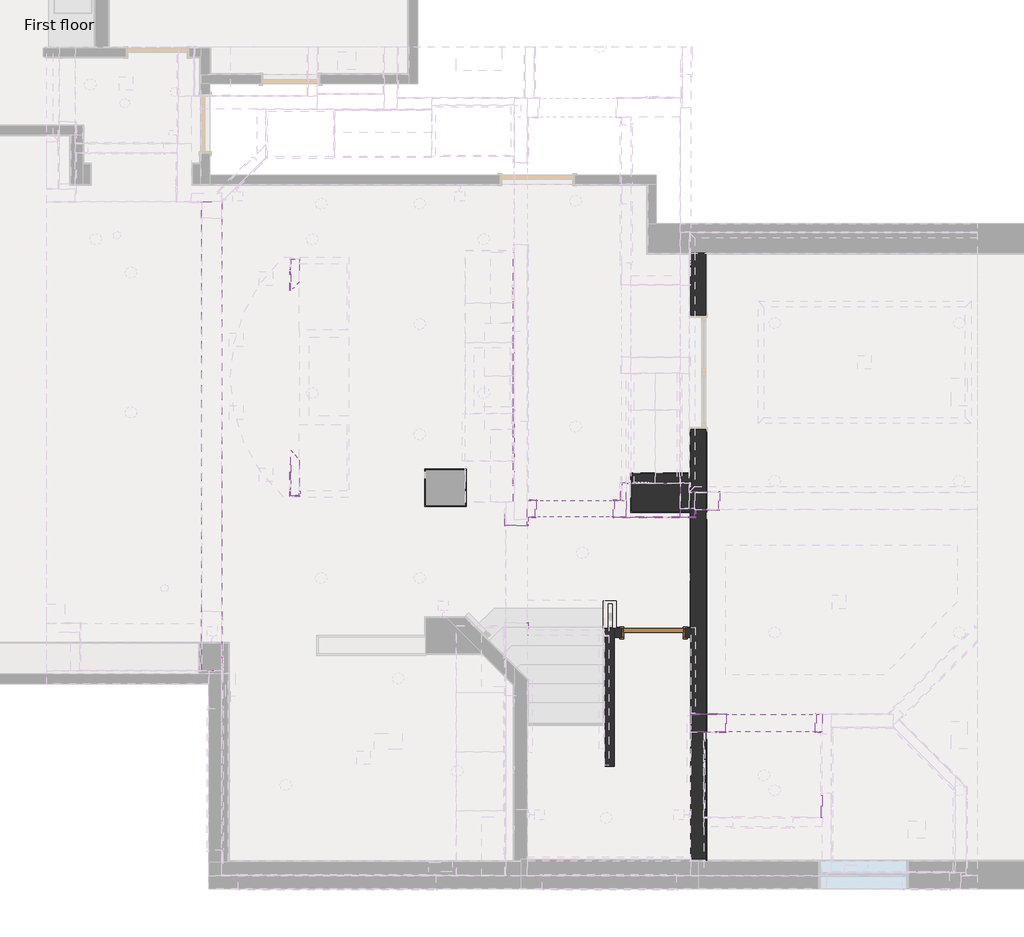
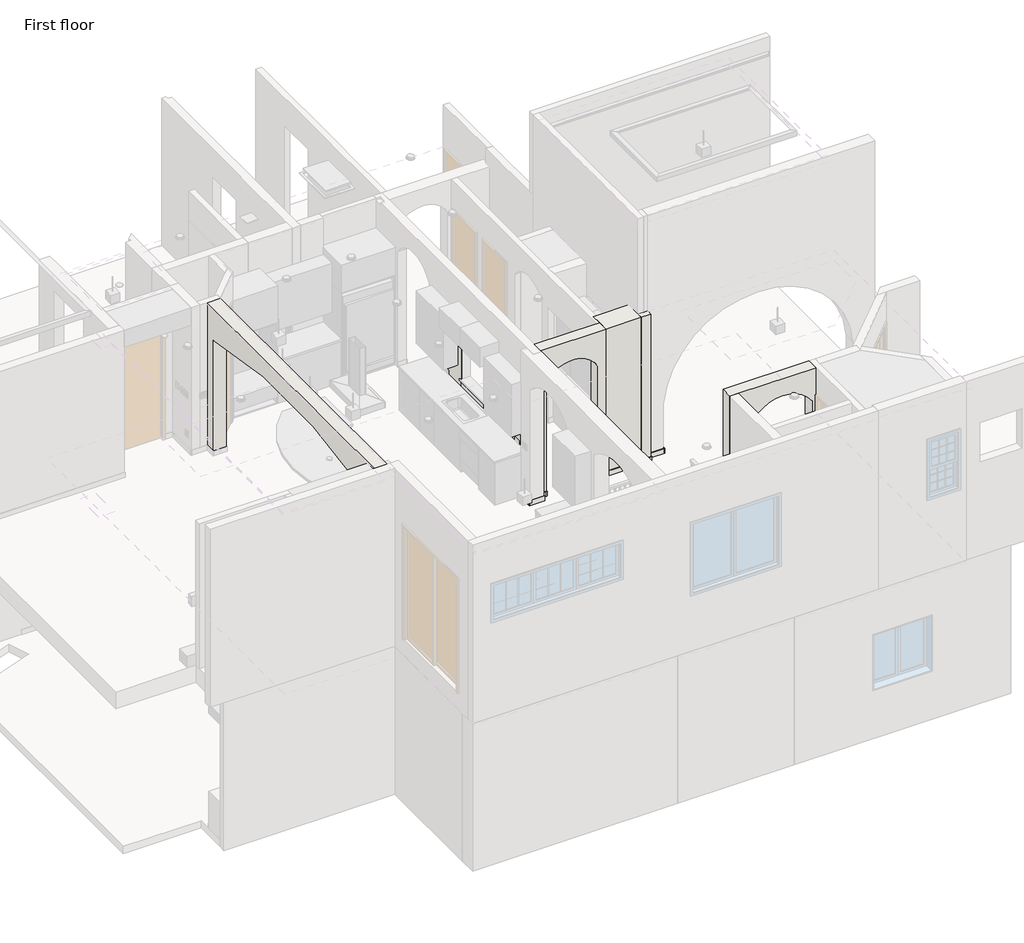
# One storey, part 4 of 14: 53 walls, 1 door.
"""IFC4 building model written with IfcOpenShell, lengths in millimetres."""

from ifc_helpers import new_model, si_unit, point, frame, frame_2d, origin, origin_with_axes, place, context, project, spatial, polyline, circle_curve, trimmed, segment, composite_curve, outline, extrude, faceted_brep, transform, mapped, element, save
from ifc_brep_helpers import plane_surface, revolved_surface, advanced_brep
from components import door_1276751d

model = new_model("IFC4")

# Units and contexts
model_context = context("Model", 3, world=origin())
ifc_project = project(units=[si_unit("LENGTHUNIT", "METRE", prefix="MILLI")], contexts=[model_context])

# Site, building, storey
site = spatial("IfcSite", under=ifc_project)
building = spatial("IfcBuilding", under=site)
storey = spatial("IfcBuildingStorey", under=building, Name="First floor", Elevation=0.0)

# Door
placement = place(None, origin())
door_shape = door_1276751d(model_context)
element("IfcDoor", 1, ObjectType="C_Single Door : 2'-6\" X 8'-0\"", at=placement, inside=storey, context=model_context, shape_type="MappedRepresentation", body=[
    mapped(door_shape, transform((5727.7, 3295.65, 0.0), x_axis=(-1.0, 0.0, 0.0), y_axis=(0.0, -1.0, 0.0), z_axis=(0.0, 0.0, 1.0))),
])

# Walls
element("IfcWall", 2, ObjectType="Wall Border_T1", at=placement, inside=storey, context=model_context, shape_type="Brep", body=[
    faceted_brep([(6413.5, 368.3, 0.0), (6413.5, 5892.8, 0.0), (6413.5, 5892.8, 101.6), (6413.5, 368.3, 101.6), (6400.8, 368.3, 0.0), (6400.8, 368.3, 101.6), (6400.8, 5892.8, 101.6), (6400.8, 5892.8, 0.0), (6400.8, 381.0, 0.0)], [[[0, 1, 2, 3]], [[4, 5, 6, 7, 8]], [[1, 0, 4, 8, 7]], [[2, 1, 7, 6]], [[3, 2, 6, 5]], [[0, 3, 5, 4]]]),
])
element("IfcWall", 3, ObjectType="Wall Border_T1", at=placement, inside=storey, context=model_context, shape_type="Brep", body=[
    faceted_brep([(6197.6, 4864.1, 0.0), (6197.6, 4851.4, 0.0), (6197.6, 3365.5, 0.0), (6197.6, 3365.5, 101.6), (6197.6, 4851.4, 101.6), (6197.6, 4864.1, 101.6), (6210.3, 4864.1, 0.0), (6210.3, 4864.1, 101.6), (6210.3, 3365.5, 101.6), (6210.3, 3365.5, 0.0)], [[[0, 1, 2, 3, 4, 5]], [[6, 7, 8, 9]], [[2, 1, 0, 6, 9]], [[5, 4, 3, 8, 7]], [[0, 5, 7, 6]], [[3, 2, 9, 8]]]),
])
element("IfcWall", 4, ObjectType="Wall Border_T1", at=placement, inside=storey, context=model_context, shape_type="Brep", body=[
    faceted_brep([(6210.3, 3365.5, 0.0), (6197.6, 3365.5, 0.0), (6159.5, 3365.5, 0.0), (6159.5, 3365.5, 101.6), (6197.6, 3365.5, 101.6), (6210.3, 3365.5, 101.6), (6210.3, 3352.8, 0.0), (6210.3, 3352.8, 101.6), (6159.5, 3352.8, 101.6), (6159.5, 3352.8, 0.0)], [[[0, 1, 2, 3, 4, 5]], [[6, 7, 8, 9]], [[2, 1, 0, 6, 9]], [[3, 2, 9, 8]], [[5, 4, 3, 8, 7]], [[0, 5, 7, 6]]]),
])
element("IfcWall", 5, ObjectType="Wall Border_T1", at=placement, inside=storey, context=model_context, shape_type="SweptSolid", body=[
    extrude(outline(polyline([(5245.0999879, 3365.5), (5295.9, 3365.5), (5295.9, 3352.8), (5245.0999879, 3352.8), (5245.0999879, 3365.5)])), origin_with_axes(), (0.0, 0.0, 1.0), 101.6),
])
element("IfcWall", 6, ObjectType="Wall Border_T1", at=placement, inside=storey, context=model_context, shape_type="Brep", body=[
    faceted_brep([(6197.6, 5892.8, 0.0), (6197.6, 5359.4, 0.0), (6197.6, 5346.7, 0.0), (6197.6, 5346.7, 101.6), (6197.6, 5359.4, 101.6), (6197.6, 5892.8, 101.6), (6210.3, 5892.8, 0.0), (6210.3, 5892.8, 101.6), (6210.3, 5346.7, 101.6), (6210.3, 5346.7, 0.0)], [[[0, 1, 2, 3, 4, 5]], [[6, 7, 8, 9]], [[2, 1, 0, 6, 9]], [[5, 4, 3, 8, 7]], [[0, 5, 7, 6]], [[3, 2, 9, 8]]]),
])
element("IfcWall", 7, ObjectType="Wall Border_T1", at=placement, inside=storey, context=model_context, shape_type="Brep", body=[
    faceted_brep([(4114.8, 5003.6947939, 3251.2), (4203.7, 5003.6947939, 3251.2), (4216.4, 5003.6947939, 3251.2), (4216.4, 5003.6947939, 3352.8), (4203.7, 5003.6947939, 3352.8), (4114.8, 5003.6947939, 3352.8), (4114.8, 5016.3947939, 3251.2), (4114.8, 5016.3947939, 3352.8), (4216.4, 5016.3947939, 3352.8), (4216.4, 5016.3947939, 3251.2)], [[[0, 1, 2, 3, 4, 5]], [[6, 7, 8, 9]], [[2, 1, 0, 6, 9]], [[5, 4, 3, 8, 7]], [[0, 5, 7, 6]], [[3, 2, 9, 8]]]),
])
element("IfcWall", 8, ObjectType="Wall Border_T1", at=placement, inside=storey, context=model_context, shape_type="Brep", body=[
    faceted_brep([(4203.7, 5003.6947939, 3251.2), (4203.7, 4787.7947939, 3251.2), (4203.7, 4775.0947939, 3251.2), (4203.7, 4775.0947939, 3352.8), (4203.7, 4787.7947939, 3352.8), (4203.7, 5003.6947939, 3352.8), (4216.4, 5003.6947939, 3251.2), (4216.4, 5003.6947939, 3352.8), (4216.4, 4775.0947939, 3352.8), (4216.4, 4775.0947939, 3251.2)], [[[0, 1, 2, 3, 4, 5]], [[6, 7, 8, 9]], [[2, 1, 0, 6, 9]], [[5, 4, 3, 8, 7]], [[0, 5, 7, 6]], [[3, 2, 9, 8]]]),
])
element("IfcWall", 9, ObjectType="Wall Border_T1", at=placement, inside=storey, context=model_context, shape_type="Brep", body=[
    faceted_brep([(4203.7, 4787.7947939, 3251.2), (4102.1, 4787.7947939, 3251.2), (4102.1, 4787.7947939, 3352.8), (4203.7, 4787.7947939, 3352.8), (4203.7, 4775.0947939, 3251.2), (4203.7, 4775.0947939, 3352.8), (4114.8, 4775.0947939, 3352.8), (4102.1, 4775.0947939, 3352.8), (4102.1, 4775.0947939, 3251.2), (4114.8, 4775.0947939, 3251.2)], [[[0, 1, 2, 3]], [[4, 5, 6, 7, 8, 9]], [[1, 0, 4, 9, 8]], [[3, 2, 7, 6, 5]], [[0, 3, 5, 4]], [[2, 1, 8, 7]]]),
])
element("IfcWall", 10, ObjectType="Wall Border_T1", at=placement, inside=storey, context=model_context, shape_type="Brep", body=[
    faceted_brep([(4114.8, 3263.9, 3251.2), (4114.8, 3428.8947939, 3251.2), (4114.8, 3428.8947939, 3352.8), (4114.8, 3263.9, 3352.8), (4102.1, 3263.9, 3251.2), (4102.1, 3263.9, 3352.8), (4102.1, 3416.1947939, 3352.8), (4102.1, 3428.8947939, 3352.8), (4102.1, 3428.8947939, 3251.2), (4102.1, 3416.1947939, 3251.2)], [[[0, 1, 2, 3]], [[4, 5, 6, 7, 8, 9]], [[1, 0, 4, 9, 8]], [[3, 2, 7, 6, 5]], [[0, 3, 5, 4]], [[2, 1, 8, 7]]]),
])
element("IfcWall", 11, ObjectType="Wall Border_T1", at=placement, inside=storey, context=model_context, shape_type="Brep", body=[
    faceted_brep([(6210.3, 2247.9, 3251.2), (6654.8, 2247.9, 3251.2), (6667.5, 2247.9, 3251.2), (6667.5, 2247.9, 3352.8), (6654.8, 2247.9, 3352.8), (6210.3, 2247.9, 3352.8), (6210.3, 2260.6, 3251.2), (6210.3, 2260.6, 3352.8), (6667.5, 2260.6, 3352.8), (6667.5, 2260.6, 3251.2)], [[[0, 1, 2, 3, 4, 5]], [[6, 7, 8, 9]], [[2, 1, 0, 6, 9]], [[5, 4, 3, 8, 7]], [[0, 5, 7, 6]], [[3, 2, 9, 8]]]),
])
element("IfcWall", 12, ObjectType="Wall Border_T1", at=placement, inside=storey, context=model_context, shape_type="Brep", body=[
    faceted_brep([(6654.8, 2247.9, 3251.2), (6654.8, 2019.3, 3251.2), (6654.8, 2006.6, 3251.2), (6654.8, 2006.6, 3352.8), (6654.8, 2019.3, 3352.8), (6654.8, 2247.9, 3352.8), (6667.5, 2247.9, 3251.2), (6667.5, 2247.9, 3352.8), (6667.5, 2006.6, 3352.8), (6667.5, 2006.6, 3251.2)], [[[0, 1, 2, 3, 4, 5]], [[6, 7, 8, 9]], [[2, 1, 0, 6, 9]], [[5, 4, 3, 8, 7]], [[0, 5, 7, 6]], [[3, 2, 9, 8]]]),
])
element("IfcWall", 13, ObjectType="Wall Border_T1", at=placement, inside=storey, context=model_context, shape_type="Brep", body=[
    faceted_brep([(6654.8, 2019.3, 3251.2), (6375.4, 2019.3, 3251.2), (6375.4, 2019.3, 3352.8), (6654.8, 2019.3, 3352.8), (6654.8, 2006.6, 3251.2), (6654.8, 2006.6, 3352.8), (6388.1, 2006.6, 3352.8), (6375.4, 2006.6, 3352.8), (6375.4, 2006.6, 3251.2), (6388.1, 2006.6, 3251.2)], [[[0, 1, 2, 3]], [[4, 5, 6, 7, 8, 9]], [[1, 0, 4, 9, 8]], [[3, 2, 7, 6, 5]], [[0, 3, 5, 4]], [[2, 1, 8, 7]]]),
])
element("IfcWall", 14, ObjectType="Wall Border_T1", at=placement, inside=storey, context=model_context, shape_type="Brep", body=[
    faceted_brep([(7880.35, 2019.3, 3251.2), (7823.2, 2019.3, 3251.2), (7810.5, 2019.3, 3251.2), (7810.5, 2019.3, 3352.8), (7823.2, 2019.3, 3352.8), (7880.35, 2019.3, 3352.8), (7880.35, 2006.6, 3251.2), (7880.35, 2006.6, 3352.8), (7810.5, 2006.6, 3352.8), (7810.5, 2006.6, 3251.2)], [[[0, 1, 2, 3, 4, 5]], [[6, 7, 8, 9]], [[2, 1, 0, 6, 9]], [[5, 4, 3, 8, 7]], [[0, 5, 7, 6]], [[3, 2, 9, 8]]]),
])
element("IfcWall", 15, ObjectType="Wall Border_T1", at=placement, inside=storey, context=model_context, shape_type="Brep", body=[
    faceted_brep([(7823.2, 2019.3, 3251.2), (7823.2, 2247.9, 3251.2), (7823.2, 2260.6, 3251.2), (7823.2, 2260.6, 3352.8), (7823.2, 2247.9, 3352.8), (7823.2, 2019.3, 3352.8), (7810.5, 2019.3, 3251.2), (7810.5, 2019.3, 3352.8), (7810.5, 2260.6, 3352.8), (7810.5, 2260.6, 3251.2)], [[[0, 1, 2, 3, 4, 5]], [[6, 7, 8, 9]], [[2, 1, 0, 6, 9]], [[5, 4, 3, 8, 7]], [[0, 5, 7, 6]], [[3, 2, 9, 8]]]),
])
element("IfcWall", 16, ObjectType="Wall Border_T1", at=placement, inside=storey, context=model_context, shape_type="Brep", body=[
    faceted_brep([(7886.7, 1206.5, 3251.2), (7886.7, 927.1, 3251.2), (7886.7, 914.4, 3251.2), (7886.7, 914.4, 3352.8), (7886.7, 927.1, 3352.8), (7886.7, 1206.5, 3352.8), (7899.4, 1206.5, 3251.2), (7899.4, 1206.5, 3352.8), (7899.4, 914.4, 3352.8), (7899.4, 914.4, 3251.2)], [[[0, 1, 2, 3, 4, 5]], [[6, 7, 8, 9]], [[2, 1, 0, 6, 9]], [[5, 4, 3, 8, 7]], [[0, 5, 7, 6]], [[3, 2, 9, 8]]]),
])
element("IfcWall", 17, ObjectType="Wall Border_T1", at=placement, inside=storey, context=model_context, shape_type="Brep", body=[
    faceted_brep([(5207.0, 5003.6947939, 3251.2), (5219.7, 5003.6947939, 3251.2), (5321.3, 5003.6947939, 3251.2), (5321.3, 5003.6947939, 3352.8), (5219.7, 5003.6947939, 3352.8), (5207.0, 5003.6947939, 3352.8), (5207.0, 5016.3947939, 3251.2), (5207.0, 5016.3947939, 3352.8), (5308.6, 5016.3947939, 3352.8), (5321.3, 5016.3947939, 3352.8), (5321.3, 5016.3947939, 3251.2), (5308.6, 5016.3947939, 3251.2)], [[[0, 1, 2, 3, 4, 5]], [[6, 7, 8, 9, 10, 11]], [[2, 1, 0, 6, 11, 10]], [[5, 4, 3, 9, 8, 7]], [[3, 2, 10, 9]], [[0, 5, 7, 6]]]),
])
element("IfcWall", 18, ObjectType="Wall Border_T1", at=placement, inside=storey, context=model_context, shape_type="Brep", body=[
    faceted_brep([(5321.3, 5016.3947939, 3251.2), (5321.3, 5219.5947939, 3251.2), (5321.3, 5232.2947939, 3251.2), (5321.3, 5232.2947939, 3352.8), (5321.3, 5219.5947939, 3352.8), (5321.3, 5016.3947939, 3352.8), (5308.6, 5016.3947939, 3251.2), (5308.6, 5016.3947939, 3352.8), (5308.6, 5232.2947939, 3352.8), (5308.6, 5232.2947939, 3251.2)], [[[0, 1, 2, 3, 4, 5]], [[6, 7, 8, 9]], [[2, 1, 0, 6, 9]], [[5, 4, 3, 8, 7]], [[0, 5, 7, 6]], [[3, 2, 9, 8]]]),
])
element("IfcWall", 19, ObjectType="Wall Border_T1", at=placement, inside=storey, context=model_context, shape_type="Brep", body=[
    faceted_brep([(5207.0, 5003.6947939, 3251.2), (5207.0, 4775.0947939, 3251.2), (5207.0, 4775.0947939, 3352.8), (5207.0, 5003.6947939, 3352.8), (5219.7, 5003.6947939, 3251.2), (5219.7, 5003.6947939, 3352.8), (5219.7, 4787.7947939, 3352.8), (5219.7, 4775.0947939, 3352.8), (5219.7, 4775.0947939, 3251.2), (5219.7, 4787.7947939, 3251.2)], [[[0, 1, 2, 3]], [[4, 5, 6, 7, 8, 9]], [[1, 0, 4, 9, 8]], [[3, 2, 7, 6, 5]], [[0, 3, 5, 4]], [[2, 1, 8, 7]]]),
])
element("IfcWall", 20, ObjectType="Wall Border_T1", at=placement, inside=storey, context=model_context, shape_type="Brep", body=[
    faceted_brep([(5219.7, 4775.0947939, 3251.2), (6273.7999991, 4775.0947939, 3251.2), (6273.7999991, 4775.0947939, 3352.8), (5219.7, 4775.0947939, 3352.8), (5219.7, 4787.7947939, 3251.2), (5219.7, 4787.7947939, 3352.8), (6261.0999991, 4787.7947939, 3352.8), (6273.7999991, 4787.7947939, 3352.8), (6273.7999991, 4787.7947939, 3251.2), (6261.0999991, 4787.7947939, 3251.2)], [[[0, 1, 2, 3]], [[4, 5, 6, 7, 8, 9]], [[1, 0, 4, 9, 8]], [[3, 2, 7, 6, 5]], [[0, 3, 5, 4]], [[2, 1, 8, 7]]]),
])
element("IfcWall", 21, ObjectType="Wall Border_T1", at=placement, inside=storey, context=model_context, shape_type="Brep", body=[
    faceted_brep([(6273.7999991, 4787.7947939, 3251.2), (6273.7999991, 4876.8001027, 3251.2), (6273.7999991, 4889.5001027, 3251.2), (6273.7999991, 4889.5001027, 3352.8), (6273.7999991, 4876.8001027, 3352.8), (6273.7999991, 4787.7947939, 3352.8), (6261.0999991, 4787.7947939, 3251.2), (6261.0999991, 4787.7947939, 3352.8), (6261.0999991, 4889.5001027, 3352.8), (6261.0999991, 4889.5001027, 3251.2)], [[[0, 1, 2, 3, 4, 5]], [[6, 7, 8, 9]], [[2, 1, 0, 6, 9]], [[5, 4, 3, 8, 7]], [[0, 5, 7, 6]], [[3, 2, 9, 8]]]),
])
element("IfcWall", 22, ObjectType="Wall Border_T1", at=placement, inside=storey, context=model_context, shape_type="SweptSolid", body=[
    extrude(outline(polyline([(6566.0527866, 4876.8001027), (6273.7999991, 4876.8001027), (6273.7999991, 4889.5001027), (6566.0527866, 4889.5001027), (6566.0527866, 4876.8001027)])), frame((0.0, 0.0, 3251.2), z_axis=(0.0, 0.0, 1.0), x_axis=(1.0, 0.0, 0.0)), (0.0, 0.0, 1.0), 101.6),
])
element("IfcWall", 23, ObjectType="Wall Border_T1", at=placement, inside=storey, context=model_context, shape_type="Brep", body=[
    faceted_brep([(6566.0527866, 5118.1001027, 3251.2), (6197.5999991, 5118.1001027, 3251.2), (6184.8999991, 5118.1001027, 3251.2), (6184.8999991, 5118.1001027, 3352.8), (6197.5999991, 5118.1001027, 3352.8), (6566.0527866, 5118.1001027, 3352.8), (6566.0527866, 5105.4001027, 3251.2), (6566.0527866, 5105.4001027, 3352.8), (6184.8999991, 5105.4001027, 3352.8), (6184.8999991, 5105.4001027, 3251.2)], [[[0, 1, 2, 3, 4, 5]], [[6, 7, 8, 9]], [[2, 1, 0, 6, 9]], [[5, 4, 3, 8, 7]], [[3, 2, 9, 8]], [[0, 5, 7, 6]]]),
])
element("IfcWall", 24, ObjectType="Wall Border_T1", at=placement, inside=storey, context=model_context, shape_type="Brep", body=[
    faceted_brep([(3810.0, 4984.6447939, 3251.2), (3810.0, 4673.4947939, 3251.2), (3810.0, 4673.4947939, 3352.8), (3810.0, 4984.6447939, 3352.8), (3822.7, 4984.6447939, 3251.2), (3822.7, 4984.6447939, 3352.8), (3822.7, 4686.1947939, 3352.8), (3822.7, 4673.4947939, 3352.8), (3822.7, 4673.4947939, 3251.2), (3822.7, 4686.1947939, 3251.2)], [[[0, 1, 2, 3]], [[4, 5, 6, 7, 8, 9]], [[1, 0, 4, 9, 8]], [[3, 2, 7, 6, 5]], [[0, 3, 5, 4]], [[2, 1, 8, 7]]]),
])
element("IfcWall", 25, ObjectType="Wall Border_T1", at=placement, inside=storey, context=model_context, shape_type="Brep", body=[
    faceted_brep([(3822.7, 4673.4947939, 3251.2), (4114.8, 4673.4947939, 3251.2), (4114.8, 4673.4947939, 3352.8), (3822.7, 4673.4947939, 3352.8), (3822.7, 4686.1947939, 3251.2), (3822.7, 4686.1947939, 3352.8), (4102.1, 4686.1947939, 3352.8), (4114.8, 4686.1947939, 3352.8), (4114.8, 4686.1947939, 3251.2), (4102.1, 4686.1947939, 3251.2)], [[[0, 1, 2, 3]], [[4, 5, 6, 7, 8, 9]], [[1, 0, 4, 9, 8]], [[3, 2, 7, 6, 5]], [[0, 3, 5, 4]], [[2, 1, 8, 7]]]),
])
element("IfcWall", 26, ObjectType="Wall Border_T1", at=placement, inside=storey, context=model_context, shape_type="SweptSolid", body=[
    extrude(outline(polyline([(5410.2, 5219.5947939), (5321.3, 5219.5947939), (5321.3, 5232.2947939), (5410.2, 5232.2947939), (5410.2, 5219.5947939)])), frame((0.0, 0.0, 3251.2), z_axis=(0.0, 0.0, 1.0), x_axis=(1.0, 0.0, 0.0)), (0.0, 0.0, 1.0), 101.6),
])
element("IfcWall", 27, ObjectType="Wall Border_T1", at=placement, inside=storey, context=model_context, shape_type="SweptSolid", body=[
    extrude(outline(composite_curve([segment(polyline([(8204.0947939, 4165.6), (7188.0947939, 4165.6), (7188.0947939, 4546.6), (7188.0947939, 5054.6)]), True, "CONTINUOUS"), segment(trimmed(circle_curve(frame_2d((6603.8947939, 4583.5454545)), 750.4545455), [point((7188.0947939, 5054.6))], [point((6019.6947939, 5054.6))], True, "CARTESIAN"), True, "CONTINUOUS"), segment(polyline([(6019.6947939, 5054.6), (6019.6947939, 4546.6), (5918.0947939, 4546.6), (5918.0947939, 5461.0), (7289.6947939, 5461.0), (7289.6947939, 4546.6), (8204.0947939, 4546.6), (8204.0947939, 4165.6)]), True, "CONTINUOUS")], self_intersect=False)), frame((3924.3, 0.0, 0.0), z_axis=(1.0, 0.0, 0.0), x_axis=(0.0, 1.0, 0.0)), (0.0, 0.0, 1.0), 12.7),
])
element("IfcWall", 28, ObjectType="Wall Border_T1", at=placement, inside=storey, context=model_context, shape_type="SweptSolid", body=[
    extrude(outline(polyline([(3924.3, 6019.6947939), (3924.3, 7188.0947939), (3937.0, 7188.0947939), (3937.0, 6019.6947939), (3924.3, 6019.6947939)])), frame((0.0, 0.0, 4165.6), z_axis=(0.0, 0.0, 1.0), x_axis=(1.0, 0.0, 0.0)), (0.0, 0.0, 1.0), 127.0),
])
element("IfcWall", 29, ObjectType="Wall Border_T1", at=placement, inside=storey, context=model_context, shape_type="Brep", body=[
    faceted_brep([(3924.3, 6019.6947939, 4165.6), (3924.3, 4984.6447939, 4165.6), (3924.3, 4984.6447939, 4546.6), (3924.3, 6019.6947939, 4546.6), (3924.3, 6019.6947939, 4292.6), (3937.0, 6019.6947939, 4165.6), (3937.0, 6019.6947939, 4292.6), (3937.0, 6019.6947939, 4546.6), (3937.0, 4984.6447939, 4546.6), (3937.0, 4984.6447939, 4165.6)], [[[0, 1, 2, 3, 4]], [[5, 6, 7, 8, 9]], [[1, 0, 5, 9]], [[2, 1, 9, 8]], [[3, 2, 8, 7]], [[0, 4, 3, 7, 6, 5]]]),
])
element("IfcWall", 30, ObjectType="Wall Border_T1", at=placement, inside=storey, context=model_context, shape_type="SweptSolid", body=[
    extrude(outline(composite_curve([segment(polyline([(1041.4, 7709.5127723), (1041.4, 8115.3), (1054.1, 8115.3), (1054.1, 7722.9038022)]), True, "CONTINUOUS"), segment(trimmed(circle_curve(frame_2d((2233.8665727, 6591.3)), 1634.7404477), [point((1054.1, 7722.9038022))], [point((1041.4, 7709.5127723))], True, "CARTESIAN"), True, "CONTINUOUS")], self_intersect=False)), frame((0.0, 0.0, 3251.2), z_axis=(0.0, 0.0, 1.0), x_axis=(1.0, 0.0, 0.0)), (0.0, 0.0, 1.0), 101.6),
])
element("IfcWall", 31, ObjectType="Wall Border_T1", at=placement, inside=storey, context=model_context, shape_type="Brep", body=[
    faceted_brep([(1168.4, 5124.45, 3251.2), (1168.4, 5067.3, 3251.2), (1168.4, 5054.6, 3251.2), (1168.4, 5054.6, 3352.8), (1168.4, 5067.3, 3352.8), (1168.4, 5124.45, 3352.8), (1181.1, 5124.45, 3251.2), (1181.1, 5124.45, 3352.8), (1181.1, 5054.6, 3352.8), (1181.1, 5054.6, 3251.2)], [[[0, 1, 2, 3, 4, 5]], [[6, 7, 8, 9]], [[2, 1, 0, 6, 9]], [[5, 4, 3, 8, 7]], [[0, 5, 7, 6]], [[3, 2, 9, 8]]]),
])
element("IfcWall", 32, ObjectType="Wall Border_T1", at=placement, inside=storey, context=model_context, shape_type="Brep", body=[
    faceted_brep([(1168.4, 5067.3, 3251.2), (1054.1, 5067.3, 3251.2), (1041.4, 5067.3, 3251.2), (1041.4, 5067.3, 3352.8), (1054.1, 5067.3, 3352.8), (1168.4, 5067.3, 3352.8), (1168.4, 5054.6, 3251.2), (1168.4, 5054.6, 3352.8), (1041.4, 5054.6, 3352.8), (1041.4, 5054.6, 3251.2)], [[[0, 1, 2, 3, 4, 5]], [[6, 7, 8, 9]], [[2, 1, 0, 6, 9]], [[5, 4, 3, 8, 7]], [[0, 5, 7, 6]], [[3, 2, 9, 8]]]),
])
element("IfcWall", 33, ObjectType="Wall Border_T1", at=placement, inside=storey, context=model_context, shape_type="SweptSolid", body=[
    extrude(outline(composite_curve([segment(polyline([(1054.1, 5459.6961978), (1054.1, 5067.3), (1041.4, 5067.3), (1041.4, 5473.0872277)]), True, "CONTINUOUS"), segment(trimmed(circle_curve(frame_2d((2233.8665727, 6591.3)), 1634.7404477), [point((1041.4, 5473.0872277))], [point((1054.1, 5459.6961978))], True, "CARTESIAN"), True, "CONTINUOUS")], self_intersect=False)), frame((0.0, 0.0, 3251.2), z_axis=(0.0, 0.0, 1.0), x_axis=(1.0, 0.0, 0.0)), (0.0, 0.0, 1.0), 101.6),
])
element("IfcWall", 34, ObjectType="Wall Border_T1", at=placement, inside=storey, context=model_context, shape_type="Brep", body=[
    faceted_brep([(6197.6, 4864.1, 0.0), (5448.3, 4864.1, 0.0), (5435.6, 4864.1, 0.0), (5435.6, 4864.1, 101.6), (5448.3, 4864.1, 101.6), (6197.6, 4864.1, 101.6), (6197.6, 4851.4, 0.0), (6197.6, 4851.4, 101.6), (5435.6, 4851.4, 101.6), (5435.6, 4851.4, 0.0)], [[[0, 1, 2, 3, 4, 5]], [[6, 7, 8, 9]], [[2, 1, 0, 6, 9]], [[5, 4, 3, 8, 7]], [[3, 2, 9, 8]], [[0, 5, 7, 6]]]),
])
element("IfcWall", 35, ObjectType="Wall Border_T1", at=placement, inside=storey, context=model_context, shape_type="Brep", body=[
    faceted_brep([(5448.3, 4864.1, 0.0), (5448.3, 5346.7, 0.0), (5448.3, 5359.4, 0.0), (5448.3, 5359.4, 101.6), (5448.3, 5346.7, 101.6), (5448.3, 4864.1, 101.6), (5435.6, 4864.1, 0.0), (5435.6, 4864.1, 101.6), (5435.6, 5359.4, 101.6), (5435.6, 5359.4, 0.0)], [[[0, 1, 2, 3, 4, 5]], [[6, 7, 8, 9]], [[2, 1, 0, 6, 9]], [[5, 4, 3, 8, 7]], [[0, 5, 7, 6]], [[3, 2, 9, 8]]]),
])
element("IfcWall", 36, ObjectType="Wall Border_T1", at=placement, inside=storey, context=model_context, shape_type="SweptSolid", body=[
    extrude(outline(polyline([(5448.3, 5359.4), (6197.6, 5359.4), (6197.6, 5346.7), (5448.3, 5346.7), (5448.3, 5359.4)])), origin_with_axes(), (0.0, 0.0, 1.0), 101.6),
])
element("IfcWall", 37, ObjectType="Wall Border_T1", at=placement, inside=storey, context=model_context, shape_type="SweptSolid", body=[
    extrude(outline(polyline([(4114.8, 4775.0947939), (4114.8, 4686.1947939), (4102.1, 4686.1947939), (4102.1, 4775.0947939), (4114.8, 4775.0947939)])), frame((0.0, 0.0, 3251.2), z_axis=(0.0, 0.0, 1.0), x_axis=(1.0, 0.0, 0.0)), (0.0, 0.0, 1.0), 101.6),
])
element("IfcWall", 38, ObjectType="Wall Border_T1", at=placement, inside=storey, context=model_context, shape_type="Brep", body=[
    faceted_brep([(6578.7527866, 4876.8001027, 3251.2), (6578.7527866, 5118.1001027, 3251.2), (6578.7527866, 5118.1001027, 3352.8), (6578.7527866, 4876.8001027, 3352.8), (6566.0527866, 4876.8001027, 3251.2), (6566.0527866, 4876.8001027, 3352.8), (6566.0527866, 4889.5001027, 3352.8), (6566.0527866, 5105.4001027, 3352.8), (6566.0527866, 5118.1001027, 3352.8), (6566.0527866, 5118.1001027, 3251.2), (6566.0527866, 5105.4001027, 3251.2), (6566.0527866, 4889.5001027, 3251.2)], [[[0, 1, 2, 3]], [[4, 5, 6, 7, 8, 9, 10, 11]], [[1, 0, 4, 11, 10, 9]], [[3, 2, 8, 7, 6, 5]], [[0, 3, 5, 4]], [[2, 1, 9, 8]]]),
])
element("IfcWall", 39, ObjectType="Wall Border_T1", at=placement, inside=storey, context=model_context, shape_type="Brep", body=[
    faceted_brep([(2781.3, 5397.5, 0.0), (2794.0, 5397.5, 0.0), (3302.0, 5397.5, 0.0), (3314.7, 5397.5, 0.0), (3314.7, 5397.5, 127.0), (3302.0, 5397.5, 127.0), (2794.0, 5397.5, 127.0), (2781.3, 5397.5, 127.0), (2781.3, 5410.2, 0.0), (2781.3, 5410.2, 127.0), (3314.7, 5410.2, 127.0), (3314.7, 5410.2, 0.0)], [[[0, 1, 2, 3, 4, 5, 6, 7]], [[8, 9, 10, 11]], [[3, 2, 1, 0, 8, 11]], [[7, 6, 5, 4, 10, 9]], [[4, 3, 11, 10]], [[0, 7, 9, 8]]]),
])
element("IfcWall", 40, ObjectType="Wall Border_T1", at=placement, inside=storey, context=model_context, shape_type="Brep", body=[
    faceted_brep([(3302.0, 5397.5, 0.0), (3302.0, 4940.3, 0.0), (3302.0, 4927.6, 0.0), (3302.0, 4927.6, 127.0), (3302.0, 4940.3, 127.0), (3302.0, 5397.5, 127.0), (3314.7, 5397.5, 0.0), (3314.7, 5397.5, 127.0), (3314.7, 4927.6, 127.0), (3314.7, 4927.6, 0.0)], [[[0, 1, 2, 3, 4, 5]], [[6, 7, 8, 9]], [[2, 1, 0, 6, 9]], [[5, 4, 3, 8, 7]], [[0, 5, 7, 6]], [[3, 2, 9, 8]]]),
])
element("IfcWall", 41, ObjectType="Wall Border_T1", at=placement, inside=storey, context=model_context, shape_type="Brep", body=[
    faceted_brep([(3302.0, 4940.3, 0.0), (2794.0, 4940.3, 0.0), (2781.3, 4940.3, 0.0), (2781.3, 4940.3, 127.0), (2794.0, 4940.3, 127.0), (3302.0, 4940.3, 127.0), (3302.0, 4927.6, 0.0), (3302.0, 4927.6, 127.0), (2781.3, 4927.6, 127.0), (2781.3, 4927.6, 0.0)], [[[0, 1, 2, 3, 4, 5]], [[6, 7, 8, 9]], [[2, 1, 0, 6, 9]], [[5, 4, 3, 8, 7]], [[0, 5, 7, 6]], [[3, 2, 9, 8]]]),
])
element("IfcWall", 42, ObjectType="Wall Border_T1", at=placement, inside=storey, context=model_context, shape_type="SweptSolid", body=[
    extrude(outline(polyline([(2794.0, 5397.5), (2794.0, 4940.3), (2781.3, 4940.3), (2781.3, 5397.5), (2794.0, 5397.5)])), origin_with_axes(), (0.0, 0.0, 1.0), 127.0),
])
element("IfcWall", 43, ObjectType="Wall_1'7\"", at=placement, inside=storey, context=model_context, shape_type="Brep", body=[
    faceted_brep([(5448.3, 4864.1, 0.0), (6210.3, 4864.1, 0.0), (6210.3, 4864.1, 2565.4), (5448.3, 4864.1, 2565.4), (5448.3, 4864.1, 101.6), (5448.3, 5346.7, 0.0), (5448.3, 5346.7, 2565.4), (6210.3, 5346.7, 2565.4), (6210.3, 5346.7, 0.0)], [[[0, 1, 2, 3, 4]], [[5, 6, 7, 8]], [[1, 0, 5, 8]], [[3, 2, 7, 6]], [[2, 1, 8, 7]], [[0, 4, 3, 6, 5]]]),
])
element("IfcWall", 44, ObjectType="Wall_10\"", at=placement, inside=storey, context=model_context, shape_type="AdvancedBrep", body=[
    advanced_brep(
    [(165.1, 8851.9, 6299.2), (165.1, 2806.7, 6299.2), (165.1, 2806.7, 3251.2), (165.1, 3568.7, 3251.2), (165.1, 3568.7, 5638.8), (165.1, 8648.7, 5638.8), (165.1, 8648.7, 3251.2), (165.1, 8851.9, 3251.2), (-88.9, 2806.7, 6299.2), (-88.9, 8851.9, 6299.2), (-88.9, 8851.9, 3352.8), (-88.9, 8851.9, 3251.2), (-88.9, 8839.2, 3251.2), (-88.9, 8648.7, 3251.2), (-88.9, 8648.7, 5638.8), (-88.9, 3568.7, 5638.8), (-88.9, 3568.7, 3251.2), (-88.9, 2806.7, 3251.2)],
    [
        (0, 1),
        (1, 2),
        (2, 3),
        (3, 4),
        (4, 5, circle_curve(frame((165.1, 6108.7, -4792.1333333), z_axis=(-1.0, 0.0, 0.0), x_axis=(0.0, 0.0, -1.0)), 10735.7333333)),
        (5, 6),
        (6, 7),
        (7, 0),
        (8, 9),
        (9, 10),
        (10, 11),
        (11, 12),
        (12, 13),
        (13, 14),
        (14, 15, circle_curve(frame((-88.9, 6108.7, -4792.1333333), z_axis=(1.0, 0.0, 0.0), x_axis=(0.0, 0.0, -1.0)), 10735.7333333)),
        (15, 16),
        (16, 17),
        (17, 8),
        (2, 17),
        (16, 3),
        (11, 7),
        (6, 13),
        (0, 9),
        (8, 1),
        (14, 5),
        (4, 15),
    ],
    [
        plane_surface(frame((165.1, 2812.4178217, 3251.2), z_axis=(1.0, 0.0, 0.0), x_axis=(0.0, 1.0, 0.0))),
        plane_surface(frame((-88.9, 2812.4178217, 3251.2), z_axis=(-1.0, 0.0, 0.0), x_axis=(0.0, -1.0, 0.0))),
        plane_surface(frame((165.1, 2724.15, 3251.2), z_axis=(0.0, 0.0, -1.0), x_axis=(-1.0, 0.0, 0.0))),
        plane_surface(frame((165.1, 8909.05, 6299.2), z_axis=(0.0, 0.0, 1.0), x_axis=(-1.0, 0.0, 0.0))),
        plane_surface(frame((0.0, 2806.7, 2908.3), z_axis=(0.0, -1.0, 0.0), x_axis=(-1.0, 0.0, 0.0))),
        plane_surface(frame((-228.6, 8851.9, 3251.2), z_axis=(0.0, 1.0, 0.0), x_axis=(1.0, 0.0, 0.0))),
        revolved_surface(polyline([(-88.9, 6108.7, -15527.8666666), (165.1, 6108.7, -15527.8666666)]), (165.1, 6108.7, -4792.1333333), (-1.0, 0.0, 0.0)),
        plane_surface(frame((-88.9, 8648.7, 5638.8), z_axis=(0.0, -1.0, 0.0), x_axis=(1.0, 0.0, 0.0))),
        plane_surface(frame((-88.9, 3568.7, 3251.2), z_axis=(0.0, 1.0, 0.0), x_axis=(1.0, 0.0, 0.0))),
    ],
    [
        (0, [[1, 2, 3, 4, 5, 6, 7, 8]]),
        (1, [[9, 10, 11, 12, 13, 14, 15, 16, 17, 18]]),
        (2, [[19, -17, 20, -3]]),
        (2, [[21, -7, 22, -13, -12]]),
        (3, [[-1, 23, -9, 24]]),
        (4, [[-2, -24, -18, -19]]),
        (5, [[-21, -11, -10, -23, -8]]),
        (6, [[25, -5, 26, -15]]),
        (7, [[-25, -14, -22, -6]]),
        (8, [[-26, -4, -20, -16]]),
    ],
),
])
element("IfcWall", 45, ObjectType="Wall_17\"", at=placement, inside=storey, context=model_context, shape_type="Brep", body=[
    faceted_brep([(6070.5999991, 5219.5947939, 6299.2), (6070.5999991, 5219.5947939, 5638.8), (6070.5999991, 5219.5947939, 3251.2), (5378.45, 5219.5947939, 3251.2), (5378.45, 5219.5947939, 5638.8), (5378.45, 5219.5947939, 6299.2), (5435.6, 5219.5947939, 6299.2), (6070.5999991, 4787.7947939, 3251.2), (6070.5999991, 4787.7947939, 6299.2), (5378.45, 4787.7947939, 6299.2), (5378.45, 4787.7947939, 3251.2), (6070.5999991, 4902.0947939, 3251.2), (5378.45, 5003.6947939, 3251.2), (5378.45, 5003.6947939, 6299.2), (6070.5999991, 4902.0947939, 6299.2)], [[[0, 1, 2, 3, 4, 5, 6]], [[7, 8, 9, 10]], [[3, 2, 11, 7, 10, 12]], [[0, 6, 5, 13, 9, 8, 14]], [[3, 12, 10, 9, 13, 5, 4]], [[0, 14, 8, 7, 11, 2, 1]]]),
])
element("IfcWall", 46, ObjectType="Wall_4.5\"", at=placement, inside=storey, context=model_context, shape_type="Brep", body=[
    faceted_brep([(5321.3, 3352.8, 2463.8), (5321.3, 3352.8, 0.0), (5245.0999879, 3352.8, 0.0), (5219.7, 3352.8, 0.0), (5219.7, 3352.8, 2565.4), (6210.3, 3352.8, 2565.4), (6210.3, 3352.8, 0.0), (6134.1, 3352.8, 0.0), (6134.1, 3352.8, 2463.8), (5219.7, 3238.5, 0.0), (5321.3, 3238.5, 0.0), (5321.3, 3238.5, 2463.8), (6134.1, 3238.5, 2463.8), (6134.1, 3238.5, 0.0), (6210.3, 3238.5, 0.0), (6210.3, 3238.5, 2565.4), (5219.7, 3238.5, 2565.4)], [[[0, 1, 2, 3, 4, 5, 6, 7, 8]], [[9, 10, 11, 12, 13, 14, 15, 16]], [[7, 6, 14, 13]], [[3, 2, 1, 10, 9]], [[5, 4, 16, 15]], [[6, 5, 15, 14]], [[4, 3, 9, 16]], [[11, 10, 1, 0]], [[12, 11, 0, 8]], [[13, 12, 8, 7]]]),
])
element("IfcWall", 47, ObjectType="Wall_4.5\"", at=placement, inside=storey, context=model_context, shape_type="Brep", body=[
    faceted_brep([(5105.4, 3352.8, 0.0), (5105.4, 1574.8, 0.0), (5105.4, 1574.8, 1696.24375), (5105.4, 1625.6000484, 1696.24375), (5105.4, 1651.0000484, 1696.24375), (5105.4, 1651.0000484, 1887.5375), (5105.4, 1894.1142788, 1887.5375), (5105.4, 1894.1142788, 2078.83125), (5105.4, 2137.2285091, 2078.83125), (5105.4, 2137.2285091, 2270.125), (5105.4, 2380.3428848, 2270.125), (5105.4, 2380.3428848, 2461.41875), (5105.4, 2623.4571152, 2461.41875), (5105.4, 2623.4571152, 2652.7125), (5105.4, 2866.5714182, 2652.7125), (5105.4, 2866.5714182, 2844.00625), (5105.4, 3109.6857212, 2844.00625), (5105.4, 3109.6857212, 3035.3), (5105.4, 3263.9, 3035.3), (5105.4, 3263.9, 2908.3), (5105.4, 3352.8, 2908.3), (5219.7, 1574.8, 0.0), (5219.7, 3238.5, 0.0), (5219.7, 3352.8, 0.0), (5219.7, 3352.8, 2565.4), (5219.7, 3352.8, 2908.3), (5219.7, 3263.9, 2908.3), (5219.7, 3263.9, 3035.3), (5219.7, 3109.6857212, 3035.3), (5219.7, 3109.6857212, 2844.00625), (5219.7, 2866.5714182, 2844.00625), (5219.7, 2866.5714182, 2652.7125), (5219.7, 2623.4571152, 2652.7125), (5219.7, 2623.4571152, 2461.41875), (5219.7, 2380.3428848, 2461.41875), (5219.7, 2380.3428848, 2270.125), (5219.7, 2137.2285091, 2270.125), (5219.7, 2137.2285091, 2078.83125), (5219.7, 1894.1142788, 2078.83125), (5219.7, 1894.1142788, 1887.5375), (5219.7, 1651.0000484, 1887.5375), (5219.7, 1651.0000484, 1696.24375), (5219.7, 1625.6000484, 1696.24375), (5219.7, 1574.8, 1696.24375)], [[[0, 1, 2, 3, 4, 5, 6, 7, 8, 9, 10, 11, 12, 13, 14, 15, 16, 17, 18, 19, 20]], [[21, 22, 23, 24, 25, 26, 27, 28, 29, 30, 31, 32, 33, 34, 35, 36, 37, 38, 39, 40, 41, 42, 43]], [[1, 0, 23, 22, 21]], [[1, 21, 43, 2]], [[19, 26, 25, 20]], [[26, 19, 18, 27]], [[23, 0, 20, 25, 24]], [[40, 5, 4, 41]], [[5, 40, 39, 6]], [[6, 39, 38, 7]], [[7, 38, 37, 8]], [[8, 37, 36, 9]], [[9, 36, 35, 10]], [[10, 35, 34, 11]], [[11, 34, 33, 12]], [[12, 33, 32, 13]], [[42, 3, 2, 43]], [[13, 32, 31, 14]], [[14, 31, 30, 15]], [[15, 30, 29, 16]], [[16, 29, 28, 17]], [[17, 28, 27, 18]], [[41, 4, 3, 42]]]),
])
element("IfcWall", 48, ObjectType="Wall_4.5\"", at=placement, inside=storey, context=model_context, shape_type="AdvancedBrep", body=[
    advanced_brep(
    [(1168.4, 5067.3, 3251.2), (1168.4, 5524.5, 3251.2), (1168.4, 5524.5, 4076.7), (1168.4, 5067.3, 4076.7), (1168.4, 5067.3, 3352.8), (1054.1, 5067.3, 3251.2), (1054.1, 5067.3, 4076.7), (1054.1, 5478.121646, 4076.7), (1054.1, 5652.453851, 4076.7), (1054.1, 5652.453851, 3251.2), (1054.1, 5478.121646, 3251.2)],
    [
        (0, 1),
        (1, 2),
        (2, 3),
        (3, 4),
        (4, 0),
        (5, 6),
        (6, 7),
        (7, 8),
        (8, 9),
        (9, 10),
        (10, 5),
        (0, 5),
        (9, 1, circle_curve(frame((2233.8665727, 6591.3, 3251.2), z_axis=(0.0, 0.0, 1.0), x_axis=(1.0, 0.0, 0.0)), 1507.7404477)),
        (2, 8, circle_curve(frame((2233.8665727, 6591.3, 4076.7), z_axis=(0.0, 0.0, -1.0), x_axis=(1.0, 0.0, 0.0)), 1507.7404477)),
        (6, 3),
    ],
    [
        plane_surface(frame((1168.4, 5067.3, 3251.2), z_axis=(1.0, 0.0, 0.0), x_axis=(0.0, 1.0, 0.0))),
        plane_surface(frame((1054.1, 5067.3, 3251.2), z_axis=(-1.0, 0.0, 0.0), x_axis=(0.0, -1.0, 0.0))),
        plane_surface(frame((1168.4, 5060.95, 3251.2), z_axis=(0.0, 0.0, -1.0), x_axis=(-1.0, 0.0, 0.0))),
        plane_surface(frame((1168.4, 5501.0641797, 4076.7), z_axis=(0.0, 0.0, 1.0), x_axis=(-1.0, 0.0, 0.0))),
        revolved_surface(polyline([(3741.6070204, 6591.3, 3251.2), (3741.6070204, 6591.3, 4076.7)]), (2233.8665727, 6591.3, 3251.2), (0.0, 0.0, -1.0)),
        plane_surface(frame((1449.0202708, 5067.3, 3251.2), z_axis=(0.0, -1.0, 0.0), x_axis=(-1.0, 0.0, 0.0))),
    ],
    [
        (0, [[1, 2, 3, 4, 5]]),
        (1, [[6, 7, 8, 9, 10, 11]]),
        (2, [[-1, 12, -11, -10, 13]]),
        (3, [[-3, 14, -8, -7, 15]]),
        (4, [[-2, -13, -9, -14]]),
        (5, [[-5, -4, -15, -6, -12]]),
    ],
),
])
element("IfcWall", 49, ObjectType="Wall_4.5\"", at=placement, inside=storey, context=model_context, shape_type="AdvancedBrep", body=[
    advanced_brep(
    [(1168.4, 7814.3274716, 3251.2), (1168.4, 8115.3, 3251.2), (1168.4, 8115.3, 3352.8), (1168.4, 8115.3, 4076.7), (1168.4, 7814.3274716, 4076.7), (1054.1, 7704.478354, 3251.2), (1054.1, 7704.478354, 4076.7), (1054.1, 8115.3, 4076.7), (1054.1, 8115.3, 3251.2)],
    [
        (0, 1),
        (1, 2),
        (2, 3),
        (3, 4),
        (4, 0),
        (5, 6),
        (6, 7),
        (7, 8),
        (8, 5),
        (0, 5, circle_curve(frame((2233.8665727, 6591.3, 3251.2), z_axis=(0.0, 0.0, 1.0), x_axis=(1.0, 0.0, 0.0)), 1622.0404477)),
        (8, 1),
        (3, 7),
        (6, 4, circle_curve(frame((2233.8665727, 6591.3, 4076.7), z_axis=(0.0, 0.0, -1.0), x_axis=(1.0, 0.0, 0.0)), 1622.0404477)),
    ],
    [
        plane_surface(frame((1168.4, 7658.1, 3251.2), z_axis=(1.0, 0.0, 0.0), x_axis=(0.0, 1.0, 0.0))),
        plane_surface(frame((1054.1, 7658.1, 3251.2), z_axis=(-1.0, 0.0, 0.0), x_axis=(0.0, -1.0, 0.0))),
        plane_surface(frame((1168.4, 7681.5358203, 3251.2), z_axis=(0.0, 0.0, -1.0), x_axis=(-1.0, 0.0, 0.0))),
        plane_surface(frame((1168.4, 8121.65, 4076.7), z_axis=(0.0, 0.0, 1.0), x_axis=(-1.0, 0.0, 0.0))),
        revolved_surface(polyline([(3855.9070204, 6591.3, 4076.7), (3855.9070204, 6591.3, 3251.2)]), (2233.8665727, 6591.3, 3251.2), (0.0, 0.0, 1.0)),
        plane_surface(frame((1247.2020514, 8115.3, 3251.2), z_axis=(0.0, 1.0, 0.0), x_axis=(1.0, 0.0, 0.0))),
    ],
    [
        (0, [[1, 2, 3, 4, 5]]),
        (1, [[6, 7, 8, 9]]),
        (2, [[-1, 10, -9, 11]]),
        (3, [[-4, 12, -7, 13]]),
        (4, [[-5, -13, -6, -10]]),
        (5, [[-3, -2, -11, -8, -12]]),
    ],
),
])
element("IfcWall", 50, ObjectType="Wall_4.5\"", at=placement, inside=storey, context=model_context, shape_type="Brep", body=[
    faceted_brep([(6261.0999991, 4902.0947939, 3251.2), (6184.8999991, 4902.0947939, 3251.2), (6070.5999991, 4902.0947939, 3251.2), (6070.5999991, 4902.0947939, 6299.2), (6261.0999991, 4902.0947939, 6299.2), (6261.0999991, 4787.7947939, 3251.2), (6261.0999991, 4787.7947939, 3352.8), (6261.0999991, 4787.7947939, 6299.2), (6070.5999991, 4787.7947939, 6299.2), (6070.5999991, 4787.7947939, 3251.2), (6261.0999991, 4889.5001027, 3251.2)], [[[0, 1, 2, 3, 4]], [[5, 6, 7, 8, 9]], [[2, 1, 0, 10, 5, 9]], [[4, 3, 8, 7]], [[0, 4, 7, 6, 5, 10]], [[3, 2, 9, 8]]]),
])
element("IfcWall", 51, ObjectType="Wall_6.5\"", at=placement, inside=storey, context=model_context, shape_type="Brep", body=[
    faceted_brep([(5079.9999879, 3708.4, 0.0), (5079.9999879, 3352.8, 0.0), (5079.9999879, 3352.8, 428.4696343), (5079.9999879, 3708.4, 148.6668557), (5245.0999879, 3352.8, 0.0), (5245.0999879, 3708.4, 0.0), (5245.0999879, 3708.4, 148.6668557), (5245.0999879, 3352.8, 428.4696343), (5219.7, 3352.8, 0.0), (5105.4, 3352.8, 0.0)], [[[0, 1, 2, 3]], [[4, 5, 6, 7]], [[1, 0, 5, 4, 8, 9]], [[5, 0, 3, 6]], [[1, 9, 8, 4, 7, 2]], [[3, 2, 7, 6]]]),
])
element("IfcWall", 52, ObjectType="Wall_7.5\"", at=placement, inside=storey, context=model_context, shape_type="Brep", body=[
    faceted_brep([(6400.8, 381.0, 0.0), (6400.8, 5918.2, 0.0), (6400.8, 5918.2, 2514.6), (6400.8, 7391.4, 2514.6), (6400.8, 7391.4, 0.0), (6400.8, 8178.8, 0.0), (6400.8, 8191.5, 0.0), (6400.8, 8191.5, 101.6), (6400.8, 8191.5, 2565.4), (6400.8, 381.0, 2565.4), (6210.3, 5918.2, 2514.6), (6210.3, 5918.2, 0.0), (6210.3, 5346.7, 0.0), (6210.3, 4864.1, 0.0), (6210.3, 3352.8, 0.0), (6210.3, 3238.5, 0.0), (6210.3, 381.0, 0.0), (6210.3, 381.0, 2565.4), (6210.3, 3238.5, 2565.4), (6210.3, 3352.8, 2565.4), (6210.3, 4864.1, 2565.4), (6210.3, 5346.7, 2565.4), (6210.3, 8191.5, 2565.4), (6210.3, 8191.5, 0.0), (6210.3, 7391.4, 0.0), (6210.3, 7391.4, 2514.6)], [[[0, 1, 2, 3, 4, 5, 6, 7, 8, 9]], [[10, 11, 12, 13, 14, 15, 16, 17, 18, 19, 20, 21, 22, 23, 24, 25]], [[24, 23, 6, 5, 4]], [[16, 15, 14, 13, 12, 11, 1, 0]], [[9, 8, 22, 21, 20, 19, 18, 17]], [[6, 23, 22, 8, 7]], [[0, 9, 17, 16]], [[3, 2, 10, 25]], [[4, 3, 25, 24]], [[2, 1, 11, 10]]]),
])
element("IfcWall", 53, ObjectType="Wall_8.5\"", at=placement, inside=storey, context=model_context, shape_type="AdvancedBrep", body=[
    advanced_brep(
    [(4102.1, 5003.6947939, 6299.2), (5321.3, 5003.6947939, 6299.2), (5378.45, 5003.6947939, 6299.2), (5378.45, 5003.6947939, 3251.2), (5321.3, 5003.6947939, 3251.2), (5219.7, 5003.6947939, 3251.2), (5219.7, 5003.6947939, 5588.0), (4203.7, 5003.6947939, 5588.0), (4203.7, 5003.6947939, 3251.2), (4102.1, 5003.6947939, 3251.2), (5378.45, 4787.7947939, 6299.2), (4102.1, 4787.7947939, 6299.2), (4102.1, 4787.7947939, 3251.2), (4203.7, 4787.7947939, 3251.2), (4203.7, 4787.7947939, 5588.0), (5219.7, 4787.7947939, 5588.0), (5219.7, 4787.7947939, 3251.2), (5378.45, 4787.7947939, 3251.2)],
    [
        (0, 1),
        (1, 2),
        (2, 3),
        (3, 4),
        (4, 5),
        (5, 6),
        (6, 7, circle_curve(frame((4711.7, 5003.6947939, 5317.0666667), z_axis=(0.0, -1.0, 0.0), x_axis=(0.0, 0.0, -1.0)), 575.7333333)),
        (7, 8),
        (8, 9),
        (9, 0),
        (10, 11),
        (11, 12),
        (12, 13),
        (13, 14),
        (14, 15, circle_curve(frame((4711.7, 4787.7947939, 5317.0666667), z_axis=(0.0, 1.0, 0.0), x_axis=(0.0, 0.0, -1.0)), 575.7333333)),
        (15, 16),
        (16, 17),
        (17, 10),
        (3, 17),
        (16, 5),
        (12, 9),
        (8, 13),
        (0, 11),
        (10, 2),
        (14, 7),
        (6, 15),
    ],
    [
        plane_surface(frame((5424.4480044, 5003.6947939, 3251.2), z_axis=(0.0, 1.0, 0.0), x_axis=(-1.0, 0.0, 0.0))),
        plane_surface(frame((5424.4480044, 4787.7947939, 3251.2), z_axis=(0.0, -1.0, 0.0), x_axis=(1.0, 0.0, 0.0))),
        plane_surface(frame((5378.45, 5003.6947939, 3251.2), z_axis=(0.0, 0.0, -1.0), x_axis=(0.0, -1.0, 0.0))),
        plane_surface(frame((3962.4, 5003.6947939, 6299.2), z_axis=(0.0, 0.0, 1.0), x_axis=(0.0, -1.0, 0.0))),
        plane_surface(frame((5378.45, 5003.6947939, 6299.2), z_axis=(1.0, 0.0, 0.0), x_axis=(0.0, -1.0, 0.0))),
        plane_surface(frame((4102.1, 5003.6947939, 3251.2), z_axis=(-1.0, 0.0, 0.0), x_axis=(0.0, 1.0, 0.0))),
        revolved_surface(polyline([(4711.7, 5003.6947939, 4741.3333334), (4711.7, 4787.7947939, 4741.3333334)]), (4711.7, 4787.7947939, 5317.0666667), (0.0, 1.0, 0.0)),
        plane_surface(frame((5219.7, 5041.7947939, 5588.0), z_axis=(-1.0, 0.0, 0.0), x_axis=(0.0, -1.0, 0.0))),
        plane_surface(frame((4203.7, 5041.7947939, 3251.2), z_axis=(1.0, 0.0, 0.0), x_axis=(0.0, -1.0, 0.0))),
    ],
    [
        (0, [[1, 2, 3, 4, 5, 6, 7, 8, 9, 10]]),
        (1, [[11, 12, 13, 14, 15, 16, 17, 18]]),
        (2, [[19, -17, 20, -5, -4]]),
        (2, [[21, -9, 22, -13]]),
        (3, [[-2, -1, 23, -11, 24]]),
        (4, [[-3, -24, -18, -19]]),
        (5, [[-10, -21, -12, -23]]),
        (6, [[25, -7, 26, -15]]),
        (7, [[-26, -6, -20, -16]]),
        (8, [[-25, -14, -22, -8]]),
    ],
),
])
element("IfcWall", 54, ObjectType="Wall_9\"", at=placement, inside=storey, context=model_context, shape_type="AdvancedBrep", body=[
    advanced_brep(
    [(6210.3, 2247.9, 6299.2), (7899.4, 2247.9, 6299.2), (7899.4, 2247.9, 3251.2), (7823.2, 2247.9, 3251.2), (7823.2, 2247.9, 5638.8), (6654.8, 2247.9, 5638.8), (6654.8, 2247.9, 3251.2), (6210.3, 2247.9, 3251.2), (7899.4, 2019.3, 6299.2), (6375.4, 2019.3, 6299.2), (6210.3, 2019.3, 6299.2), (6210.3, 2019.3, 3251.2), (6375.4, 2019.3, 3251.2), (6654.8, 2019.3, 3251.2), (6654.8, 2019.3, 5638.8), (7823.2, 2019.3, 5638.8), (7823.2, 2019.3, 3251.2), (7899.4, 2019.3, 3251.2)],
    [
        (0, 1),
        (1, 2),
        (2, 3),
        (3, 4),
        (4, 5, circle_curve(frame((7239.0, 2247.9, 5231.3416667), z_axis=(0.0, -1.0, 0.0), x_axis=(0.0, 0.0, -1.0)), 712.2583333)),
        (5, 6),
        (6, 7),
        (7, 0),
        (8, 9),
        (9, 10),
        (10, 11),
        (11, 12),
        (12, 13),
        (13, 14),
        (14, 15, circle_curve(frame((7239.0, 2019.3, 5231.3416667), z_axis=(0.0, 1.0, 0.0), x_axis=(0.0, 0.0, -1.0)), 712.2583333)),
        (15, 16),
        (16, 17),
        (17, 8),
        (2, 17),
        (16, 3),
        (11, 7),
        (6, 13),
        (0, 10),
        (8, 1),
        (14, 5),
        (4, 15),
    ],
    [
        plane_surface(frame((8013.7, 2247.9, 3251.2), z_axis=(0.0, 1.0, 0.0), x_axis=(-1.0, 0.0, 0.0))),
        plane_surface(frame((8013.7, 2019.3, 3251.2), z_axis=(0.0, -1.0, 0.0), x_axis=(1.0, 0.0, 0.0))),
        plane_surface(frame((7956.55, 2247.9, 3251.2), z_axis=(0.0, 0.0, -1.0), x_axis=(0.0, -1.0, 0.0))),
        plane_surface(frame((6292.85, 2247.9, 6299.2), z_axis=(0.0, 0.0, 1.0), x_axis=(0.0, -1.0, 0.0))),
        plane_surface(frame((7899.4, 209.9682628, 3251.2), z_axis=(1.0, 0.0, 0.0), x_axis=(0.0, -1.0, 0.0))),
        plane_surface(frame((6210.3, 2019.3, 3251.2), z_axis=(-1.0, 0.0, 0.0), x_axis=(0.0, -1.0, 0.0))),
        revolved_surface(polyline([(7239.0, 2019.3, 4519.0833334), (7239.0, 2247.9, 4519.0833334)]), (7239.0, 2247.9, 5231.3416667), (0.0, -1.0, 0.0)),
        plane_surface(frame((6654.8, 2019.3, 5638.8), z_axis=(1.0, 0.0, 0.0), x_axis=(0.0, 1.0, 0.0))),
        plane_surface(frame((7823.2, 2019.3, 3251.2), z_axis=(-1.0, 0.0, 0.0), x_axis=(0.0, 1.0, 0.0))),
    ],
    [
        (0, [[1, 2, 3, 4, 5, 6, 7, 8]]),
        (1, [[9, 10, 11, 12, 13, 14, 15, 16, 17, 18]]),
        (2, [[19, -17, 20, -3]]),
        (2, [[21, -7, 22, -13, -12]]),
        (3, [[-1, 23, -10, -9, 24]]),
        (4, [[-2, -24, -18, -19]]),
        (5, [[-8, -21, -11, -23]]),
        (6, [[25, -5, 26, -15]]),
        (7, [[-25, -14, -22, -6]]),
        (8, [[-26, -4, -20, -16]]),
    ],
),
])

save(model, "model.ifc")
